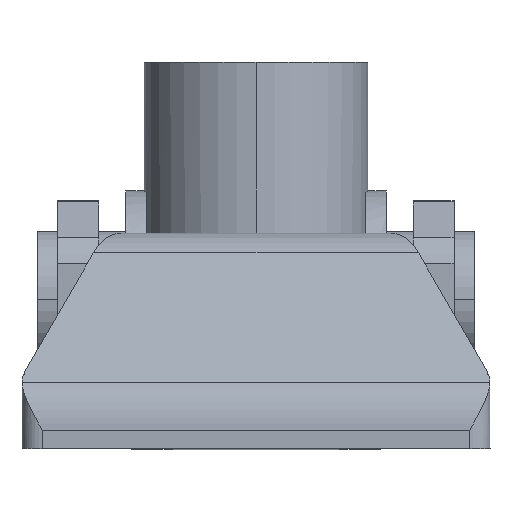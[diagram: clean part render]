
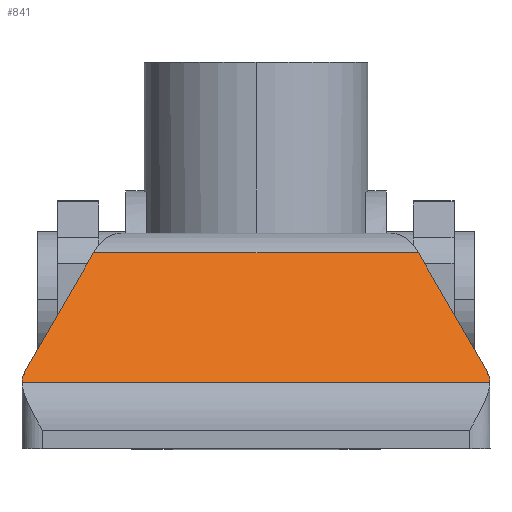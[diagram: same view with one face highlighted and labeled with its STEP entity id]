
A CAD part, top view. The second image highlights one B-rep face of the part: STEP entity #841.
In plain terms, the highlighted planar face has unit normal (0, 0.707, 0.707).
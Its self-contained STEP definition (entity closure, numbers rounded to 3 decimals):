
#628 = VERTEX_POINT ( 'NONE', #2268 ) ;
#680 = VERTEX_POINT ( 'NONE', #2133 ) ;
#682 = EDGE_CURVE ( 'NONE', #680, #628, #2132, .T. ) ;
#687 = VERTEX_POINT ( 'NONE', #2187 ) ;
#689 = EDGE_CURVE ( 'NONE', #687, #680, #2186, .T. ) ;
#699 = VERTEX_POINT ( 'NONE', #2288 ) ;
#707 = VERTEX_POINT ( 'NONE', #2219 ) ;
#741 = EDGE_CURVE ( 'NONE', #699, #707, #2432, .T. ) ;
#746 = VERTEX_POINT ( 'NONE', #2420 ) ;
#749 = EDGE_CURVE ( 'NONE', #707, #746, #2418, .T. ) ;
#804 = EDGE_LOOP ( 'NONE', ( #860, #861, #867, #868, #920, #921 ) ) ;
#823 = EDGE_CURVE ( 'NONE', #687, #699, #2455, .T. ) ;
#824 = EDGE_CURVE ( 'NONE', #628, #746, #2451, .T. ) ;
#841 = ADVANCED_FACE ( 'NONE', ( #2549 ), #2548, .T. ) ;
#860 = ORIENTED_EDGE ( 'NONE', *, *, #689, .F. ) ;
#861 = ORIENTED_EDGE ( 'NONE', *, *, #823, .T. ) ;
#867 = ORIENTED_EDGE ( 'NONE', *, *, #741, .T. ) ;
#868 = ORIENTED_EDGE ( 'NONE', *, *, #749, .T. ) ;
#920 = ORIENTED_EDGE ( 'NONE', *, *, #824, .F. ) ;
#921 = ORIENTED_EDGE ( 'NONE', *, *, #682, .F. ) ;
#2132 =( BOUNDED_CURVE ( )  B_SPLINE_CURVE ( 3, ( #2195, #2194, #2193, #2192 ),
 .UNSPECIFIED., .F., .T. ) 
 B_SPLINE_CURVE_WITH_KNOTS ( ( 4, 4 ),
 ( 4.189, 4.736 ),
 .UNSPECIFIED. ) 
 CURVE ( )  GEOMETRIC_REPRESENTATION_ITEM ( )  RATIONAL_B_SPLINE_CURVE ( ( 1., 0.975, 0.975, 1. ) ) 
 REPRESENTATION_ITEM ( '' )  );
#2133 = CARTESIAN_POINT ( 'NONE',  ( 34.098, 11.3, 52.5 ) ) ;
#2186 = LINE ( 'NONE', #2303, #2302 ) ;
#2187 = CARTESIAN_POINT ( 'NONE',  ( 23.953, 28.871, 34.929 ) ) ;
#2192 = CARTESIAN_POINT ( 'NONE',  ( 34.499, 9.729, 54.071 ) ) ;
#2193 = CARTESIAN_POINT ( 'NONE',  ( 34.512, 10.283, 53.517 ) ) ;
#2194 = CARTESIAN_POINT ( 'NONE',  ( 34.375, 10.82, 52.98 ) ) ;
#2195 = CARTESIAN_POINT ( 'NONE',  ( 34.098, 11.3, 52.5 ) ) ;
#2219 = CARTESIAN_POINT ( 'NONE',  ( -34.098, 11.3, 52.5 ) ) ;
#2268 = CARTESIAN_POINT ( 'NONE',  ( 34.499, 9.729, 54.071 ) ) ;
#2288 = CARTESIAN_POINT ( 'NONE',  ( -23.953, 28.871, 34.929 ) ) ;
#2301 = DIRECTION ( 'NONE',  ( 0.378, -0.655, 0.655 ) ) ;
#2302 = VECTOR ( 'NONE', #2301, 1000. ) ;
#2303 = CARTESIAN_POINT ( 'NONE',  ( 25.46, 26.261, 37.539 ) ) ;
#2396 = CARTESIAN_POINT ( 'NONE',  ( -34.499, 9.729, 54.071 ) ) ;
#2397 = CARTESIAN_POINT ( 'NONE',  ( -34.512, 10.283, 53.517 ) ) ;
#2398 = CARTESIAN_POINT ( 'NONE',  ( -34.375, 10.82, 52.98 ) ) ;
#2399 = CARTESIAN_POINT ( 'NONE',  ( -34.098, 11.3, 52.5 ) ) ;
#2418 =( BOUNDED_CURVE ( )  B_SPLINE_CURVE ( 3, ( #2399, #2398, #2397, #2396 ),
 .UNSPECIFIED., .F., .T. ) 
 B_SPLINE_CURVE_WITH_KNOTS ( ( 4, 4 ),
 ( 4.189, 4.736 ),
 .UNSPECIFIED. ) 
 CURVE ( )  GEOMETRIC_REPRESENTATION_ITEM ( )  RATIONAL_B_SPLINE_CURVE ( ( 1., 0.975, 0.975, 1. ) ) 
 REPRESENTATION_ITEM ( '' )  );
#2420 = CARTESIAN_POINT ( 'NONE',  ( -34.499, 9.729, 54.071 ) ) ;
#2429 = DIRECTION ( 'NONE',  ( -0.378, -0.655, 0.655 ) ) ;
#2430 = VECTOR ( 'NONE', #2429, 1000. ) ;
#2431 = CARTESIAN_POINT ( 'NONE',  ( -25.46, 26.261, 37.539 ) ) ;
#2432 = LINE ( 'NONE', #2431, #2430 ) ;
#2448 = DIRECTION ( 'NONE',  ( -1., 0., 0. ) ) ;
#2449 = VECTOR ( 'NONE', #2448, 1000. ) ;
#2450 = CARTESIAN_POINT ( 'NONE',  ( 34.501, 9.729, 54.071 ) ) ;
#2451 = LINE ( 'NONE', #2450, #2449 ) ;
#2452 = DIRECTION ( 'NONE',  ( -1., 0., 0. ) ) ;
#2453 = VECTOR ( 'NONE', #2452, 1000. ) ;
#2454 = CARTESIAN_POINT ( 'NONE',  ( 34.501, 28.871, 34.929 ) ) ;
#2455 = LINE ( 'NONE', #2454, #2453 ) ;
#2544 = DIRECTION ( 'NONE',  ( 0., -0.707, 0.707 ) ) ;
#2545 = DIRECTION ( 'NONE',  ( 0., 0.707, 0.707 ) ) ;
#2546 = CARTESIAN_POINT ( 'NONE',  ( 34.501, 28.871, 34.929 ) ) ;
#2547 = AXIS2_PLACEMENT_3D ( 'NONE', #2546, #2545, #2544 ) ;
#2548 = PLANE ( 'NONE',  #2547 ) ;
#2549 = FACE_OUTER_BOUND ( 'NONE', #804, .T. ) ;
